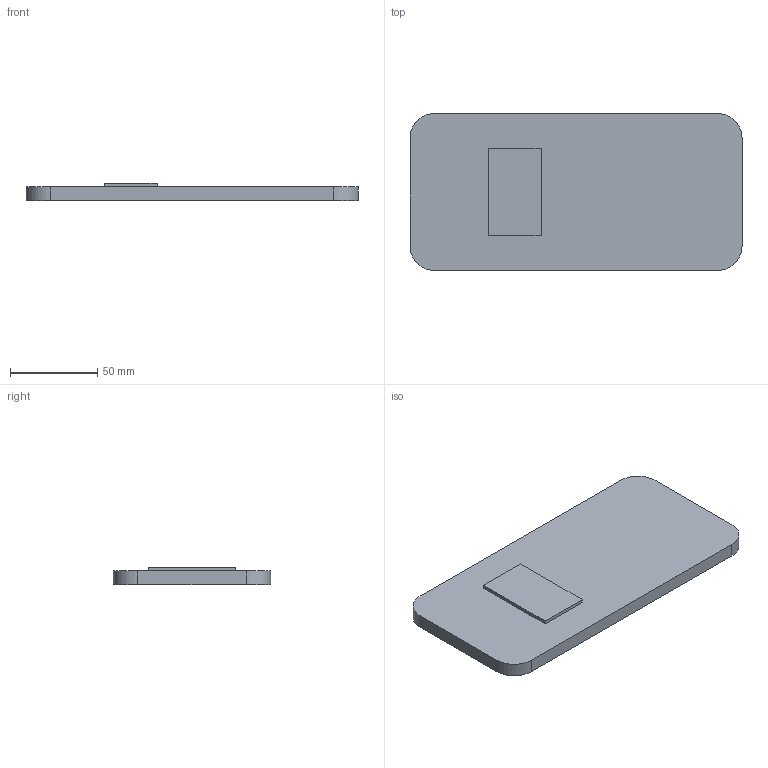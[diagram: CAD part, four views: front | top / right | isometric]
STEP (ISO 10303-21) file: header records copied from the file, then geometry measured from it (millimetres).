
FILE_DESCRIPTION(('FreeCAD Model'),'2;1');
FILE_NAME('Open CASCADE Shape Model','2026-11-09T00:40:30',('FreeCAD'),( 'FreeCAD'),'Open CASCADE STEP processor 7.8','FreeCAD','Unknown');
FILE_SCHEMA(('AUTOMOTIVE_DESIGN { 1 0 10303 214 1 1 1 1 }'));
Length unit declared in the file: millimetre
Products named in the file (1): Open CASCADE STEP translator 7.8 11
Bounding box: 190 x 90 x 10 mm (x, y, z)
Volume: 138454 mm3; surface area: 38471.2 mm2
Topology: 1 solids, 1 shells, 15 faces, 36 edges, 24 vertices
Faces by surface type: plane 11, cylinder 4
Entity records: 448 total; most frequent: CARTESIAN_POINT 76, DIRECTION 76, ORIENTED_EDGE 72, EDGE_CURVE 36, LINE 28, VECTOR 28, AXIS2_PLACEMENT_3D 24, VERTEX_POINT 24
